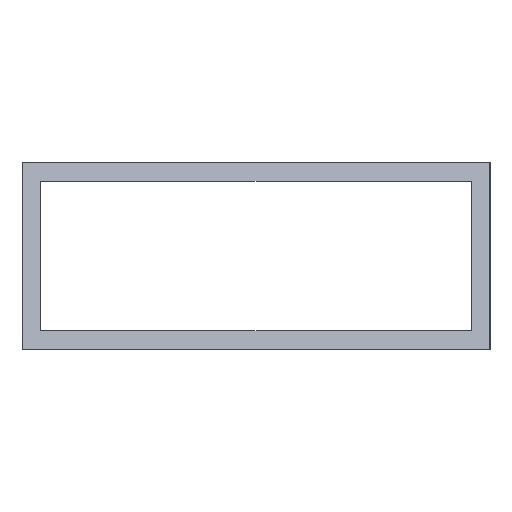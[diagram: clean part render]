
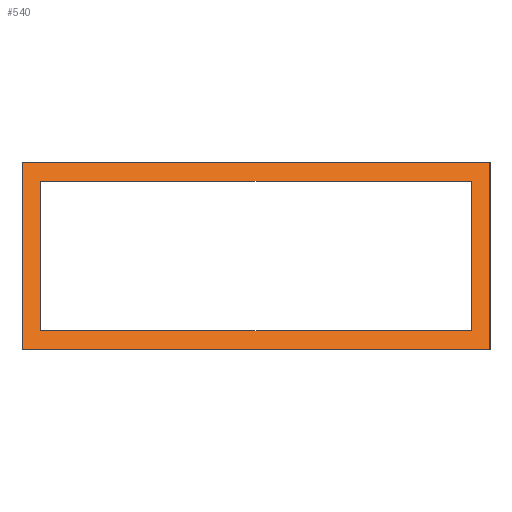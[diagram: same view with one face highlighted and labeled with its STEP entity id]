
A CAD part, left-side view. The second image highlights one B-rep face of the part: STEP entity #540.
In plain terms, the highlighted planar face has unit normal (-0.903, 0, 0.43).
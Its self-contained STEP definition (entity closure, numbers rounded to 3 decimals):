
#278=ORIENTED_EDGE('',*,*,#384,.T.);
#279=ORIENTED_EDGE('',*,*,#375,.T.);
#280=ORIENTED_EDGE('',*,*,#379,.T.);
#281=ORIENTED_EDGE('',*,*,#382,.T.);
#282=ORIENTED_EDGE('',*,*,#386,.T.);
#283=ORIENTED_EDGE('',*,*,#387,.T.);
#284=ORIENTED_EDGE('',*,*,#388,.T.);
#285=ORIENTED_EDGE('',*,*,#389,.T.);
#311=VECTOR('',#425,1.);
#315=VECTOR('',#431,1.);
#318=VECTOR('',#436,1.);
#320=VECTOR('',#440,1.);
#322=VECTOR('',#444,1.);
#323=VECTOR('',#445,1.);
#324=VECTOR('',#446,1.);
#325=VECTOR('',#447,1.);
#335=LINE('',#471,#311);
#339=LINE('',#479,#315);
#342=LINE('',#485,#318);
#344=LINE('',#488,#320);
#346=LINE('',#493,#322);
#347=LINE('',#495,#323);
#348=LINE('',#497,#324);
#349=LINE('',#498,#325);
#359=VERTEX_POINT('',#468);
#360=VERTEX_POINT('',#470);
#363=VERTEX_POINT('',#477);
#365=VERTEX_POINT('',#483);
#366=VERTEX_POINT('',#491);
#367=VERTEX_POINT('',#492);
#368=VERTEX_POINT('',#494);
#369=VERTEX_POINT('',#496);
#375=EDGE_CURVE('',#360,#359,#335,.T.);
#379=EDGE_CURVE('',#359,#363,#339,.T.);
#382=EDGE_CURVE('',#363,#365,#342,.T.);
#384=EDGE_CURVE('',#365,#360,#344,.T.);
#386=EDGE_CURVE('',#366,#367,#346,.T.);
#387=EDGE_CURVE('',#367,#368,#347,.T.);
#388=EDGE_CURVE('',#368,#369,#348,.T.);
#389=EDGE_CURVE('',#369,#366,#349,.T.);
#402=EDGE_LOOP('',(#278,#279,#280,#281));
#403=EDGE_LOOP('',(#282,#283,#284,#285));
#414=FACE_BOUND('',#402,.T.);
#415=FACE_BOUND('',#403,.T.);
#425=DIRECTION('',(9.54,0.,20.));
#431=DIRECTION('',(0.,50.,0.));
#436=DIRECTION('',(-9.54,0.,-20.));
#440=DIRECTION('',(0.,-50.,0.));
#442=DIRECTION('',(-0.903,0.,0.431));
#443=DIRECTION('',(0.,0.903,0.));
#444=DIRECTION('',(-7.632,0.,-16.));
#445=DIRECTION('',(0.,46.,0.));
#446=DIRECTION('',(7.632,0.,16.));
#447=DIRECTION('',(0.,-46.,0.));
#468=CARTESIAN_POINT('',(96.897,0.,20.));
#470=CARTESIAN_POINT('',(87.358,0.,0.));
#471=CARTESIAN_POINT('',(87.358,0.,0.));
#477=CARTESIAN_POINT('',(96.897,50.,20.));
#479=CARTESIAN_POINT('',(96.897,0.,20.));
#483=CARTESIAN_POINT('',(87.358,50.,0.));
#485=CARTESIAN_POINT('',(96.897,50.,20.));
#488=CARTESIAN_POINT('',(87.358,50.,0.));
#490=CARTESIAN_POINT('',(88.287,50.,1.948));
#491=CARTESIAN_POINT('',(95.943,2.,18.));
#492=CARTESIAN_POINT('',(88.312,2.,2.));
#493=CARTESIAN_POINT('',(95.943,2.,18.));
#494=CARTESIAN_POINT('',(88.312,48.,2.));
#495=CARTESIAN_POINT('',(88.312,2.,2.));
#496=CARTESIAN_POINT('',(95.943,48.,18.));
#497=CARTESIAN_POINT('',(88.312,48.,2.));
#498=CARTESIAN_POINT('',(95.943,48.,18.));
#520=AXIS2_PLACEMENT_3D('',#490,#442,#443);
#530=PLANE('',#520);
#540=ADVANCED_FACE('',(#414,#415),#530,.T.);
